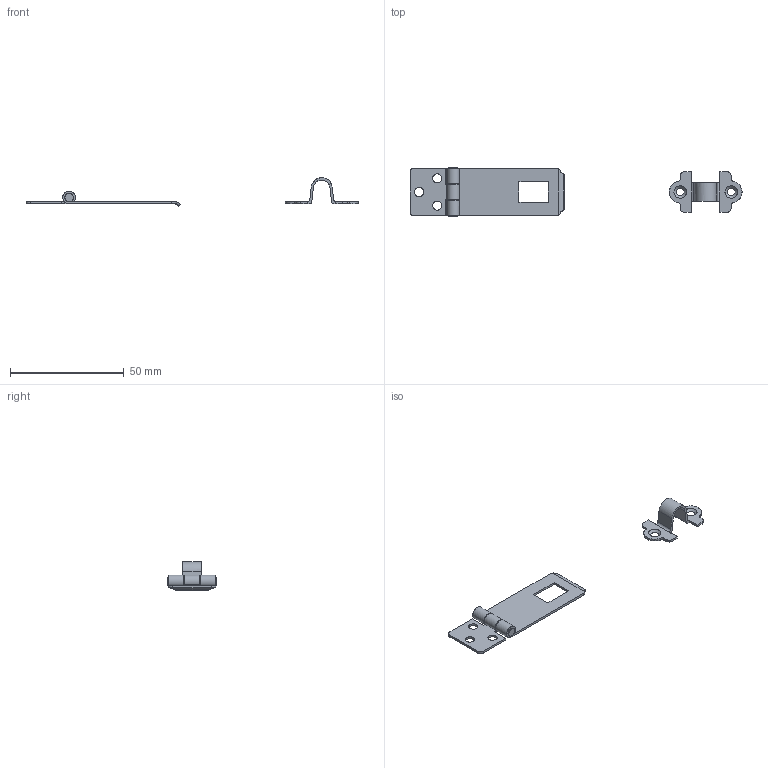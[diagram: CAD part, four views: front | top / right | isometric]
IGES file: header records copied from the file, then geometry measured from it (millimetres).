
Global section: file name: DR_GS1-1; native system: Autodesk Inventor 2015; preprocessor: unknown; author: CH.J; date: 20170831.085748; units: millimetre
Bounding box: 146.24 x 22 x 12.54 mm (x, y, z)
Volume: 2112.3 mm3; surface area: 4589.6 mm2
Topology: 4 solids, 4 shells, 90 faces, 253 edges, 173 vertices
Faces by surface type: bspline 90
